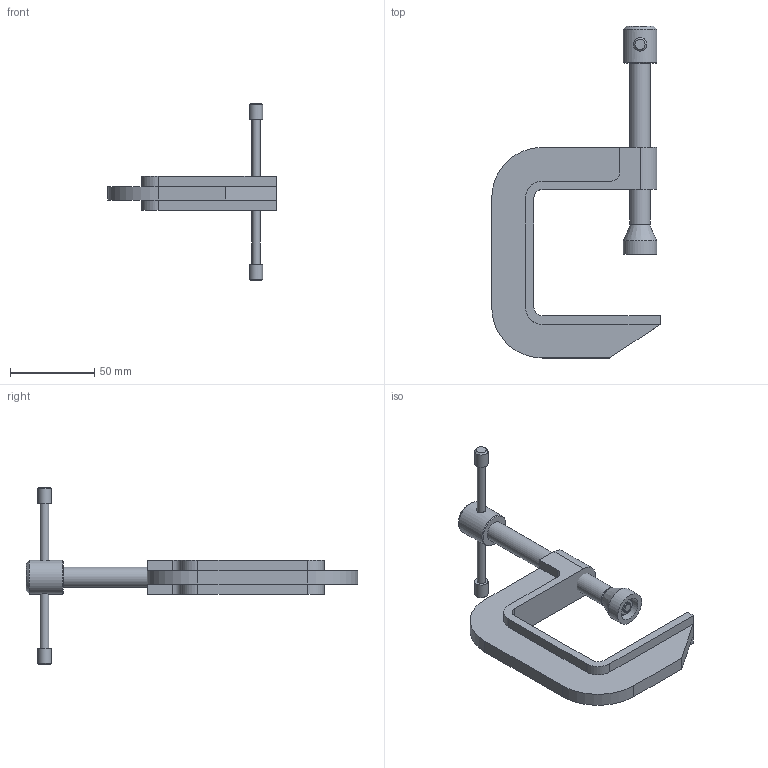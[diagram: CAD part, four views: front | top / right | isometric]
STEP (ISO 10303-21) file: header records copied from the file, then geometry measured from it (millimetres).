
FILE_DESCRIPTION(/* description */ (''),/* implementation_level */ '2;1');
FILE_NAME(/* name */ 'Assieme Morsa.stp',/* time_stamp */ '2023-05-31T18:47:44+02:00',/* author */ ('x300'),/* organization */ (''),/* preprocessor_version */ 'ST-DEVELOPER v19.2',/* originating_system */ 'Autodesk Inventor 2023',/* authorisation */ '');
FILE_SCHEMA (('AUTOMOTIVE_DESIGN { 1 0 10303 214 3 1 1 }'));
Length unit declared in the file: millimetre
Products named in the file (7): Assieme Morsa; Spindle; Handle; Spindle Cap; Cup Handle; AS 1112 - M6  Tipo 5; Clamp Jaw
Assembly tree (7 placements, depth 2):
  Assieme Morsa
    Spindle
    Handle
    Spindle Cap
    Cup Handle  x2
    AS 1112 - M6  Tipo 5
    Clamp Jaw
Bounding box: 100 x 197 x 105.5 mm (x, y, z)
Volume: 88842.7 mm3; surface area: 33834.7 mm2
Topology: 7 solids, 7 shells, 89 faces, 193 edges, 123 vertices
Faces by surface type: plane 43, cylinder 25, cone 21
Full cylindrical faces by diameter (mm): 4.917 x1, 5 x3, 5.5 x1, 6 x2, 8 x2, 10.106 x1, 12 x1, 14 x1, 20 x2
Entity records: 2634 total; most frequent: CARTESIAN_POINT 517, DIRECTION 421, ORIENTED_EDGE 370, EDGE_CURVE 185, AXIS2_PLACEMENT_3D 166, VERTEX_POINT 118, EDGE_LOOP 95, LINE 89
